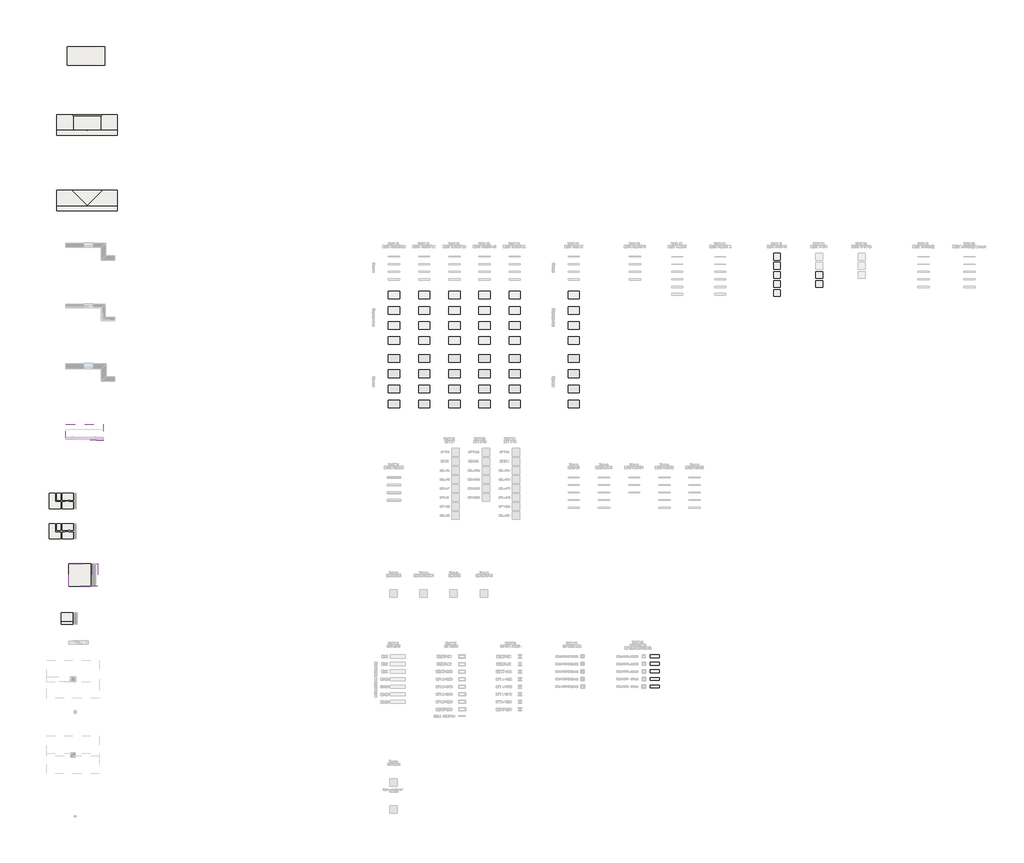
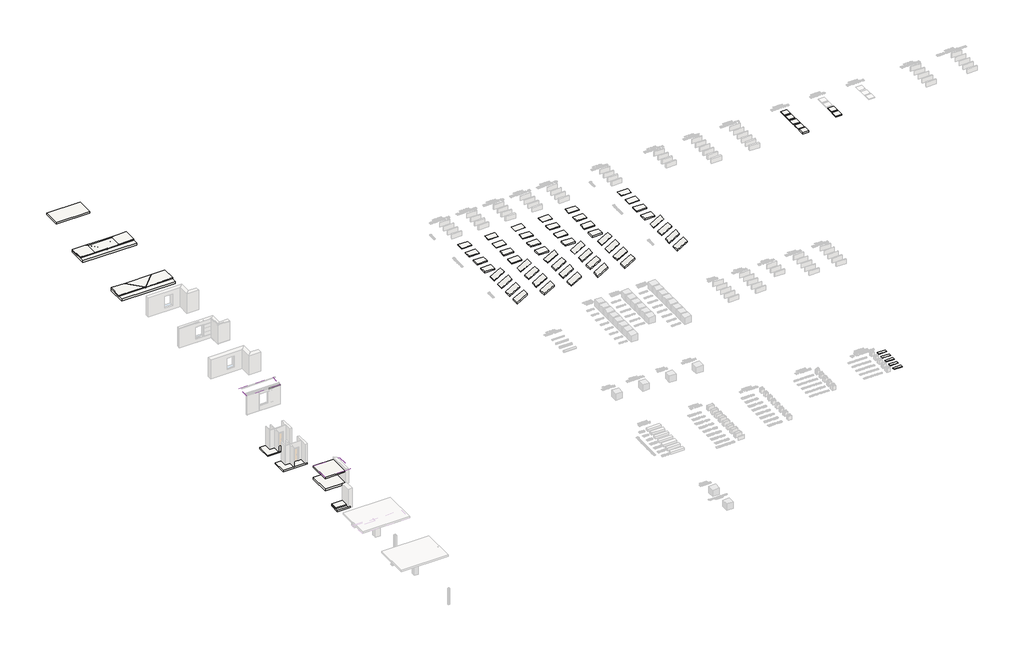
# One storey, part 5 of 35: 43 roofs, 30 slabs, 5 coverings, 1 pipe segment.
"""IFC4 building model written with IfcOpenShell, lengths in millimetres."""

from ifc_helpers import new_model, si_unit, point, frame, frame_2d, origin, origin_with_axes, place, context, project, spatial, polyline, circle_curve, ellipse_curve, trimmed, segment, composite_curve, outline, extrude, faceted_brep, element, save
from ifc_brep_helpers import plane_surface, revolved_surface, advanced_brep

model = new_model("IFC4")

# Units and contexts
model_context = context("Model", 3, world=origin())
ifc_project = project(units=[si_unit("LENGTHUNIT", "METRE", prefix="MILLI")], contexts=[model_context])

# Site, building, storey
site = spatial("IfcSite", under=ifc_project)
building = spatial("IfcBuilding", under=site)
storey = spatial("IfcBuildingStorey", under=building, Name="Этаж 01", Elevation=0.0)

# Coverings
placement = place(None, origin())
element("IfcCovering", 1, ObjectType="Тизол EURO-ЛИТ 80 (30мм)", at=placement, inside=storey, context=model_context, shape_type="SweptSolid", body=[
    extrude(outline(polyline([(37129.3548665, -48942.5493767), (37129.3548665, -49322.5493767), (35929.3548665, -49322.5493767), (35929.3548665, -48942.5493767), (37129.3548665, -48942.5493767)])), origin_with_axes(), (0.0, 0.0, 1.0), 30.0),
])
element("IfcCovering", 2, ObjectType="Тизол EURO-ЛИТ 80 (40мм)", at=placement, inside=storey, context=model_context, shape_type="SweptSolid", body=[
    extrude(outline(polyline([(37129.3548665, -49942.5493767), (37129.3548665, -50322.5493767), (35929.3548665, -50322.5493767), (35929.3548665, -49942.5493767), (37129.3548665, -49942.5493767)])), origin_with_axes(), (0.0, 0.0, 1.0), 40.0),
])
element("IfcCovering", 3, ObjectType="Тизол EURO-ЛИТ 80 (50мм)", at=placement, inside=storey, context=model_context, shape_type="SweptSolid", body=[
    extrude(outline(polyline([(37129.3548665, -50942.5493767), (37129.3548665, -51322.5493767), (35929.3548665, -51322.5493767), (35929.3548665, -50942.5493767), (37129.3548665, -50942.5493767)])), origin_with_axes(), (0.0, 0.0, 1.0), 50.0),
])
element("IfcCovering", 4, ObjectType="Тизол EURO-ЛИТ 80 (60мм)", at=placement, inside=storey, context=model_context, shape_type="SweptSolid", body=[
    extrude(outline(polyline([(37129.3548665, -51942.5493767), (37129.3548665, -52322.5493767), (35929.3548665, -52322.5493767), (35929.3548665, -51942.5493767), (37129.3548665, -51942.5493767)])), origin_with_axes(), (0.0, 0.0, 1.0), 60.0),
])
element("IfcCovering", 5, ObjectType="Тизол EURO-ЛИТ 80 (80мм)", at=placement, inside=storey, context=model_context, shape_type="SweptSolid", body=[
    extrude(outline(polyline([(37129.3548665, -52942.5493767), (37129.3548665, -53322.5493767), (35929.3548665, -53322.5493767), (35929.3548665, -52942.5493767), (37129.3548665, -52942.5493767)])), origin_with_axes(), (0.0, 0.0, 1.0), 80.0),
])

# Pipe segment
element("IfcPipeSegment", 6, ObjectType="ADSK_Желоб_Скос_125х125", at=placement, inside=storey, context=model_context, shape_type="SweptSolid", body=[
    extrude(outline(polyline([(-20449.5243348, 2980.3791945), (-20523.7243348, 2980.3791945), (-20561.8243348, 3079.8914271), (-20574.5243348, 3079.8914271), (-20574.5243348, 3092.5914271), (-20561.8243348, 3092.5914271), (-20561.8243348, 3089.4164271), (-20571.3493348, 3089.4164271), (-20571.3493348, 3083.0664271), (-20559.4620375, 3083.0664271), (-20521.3620375, 2983.5541945), (-20452.6993348, 2983.5541945), (-20452.6993348, 3105.2914271), (-20449.5243348, 3105.2914271), (-20449.5243348, 2980.3791945)])), frame((-38175.0301385, 0.0, 0.0), z_axis=(1.0, 0.0, 0.0), x_axis=(0.0, 1.0, 0.0)), (0.0, 0.0, 1.0), 1700.0),
])

# Roofs
element("IfcRoof", 7, ObjectType="Тизол EURO-РУФ Н (40мм)", at=placement, inside=storey, context=model_context, shape_type="SweptSolid", body=[
    extrude(outline(polyline([(52250.0, 4200.0), (53150.0, 4200.0), (53150.0, 3300.0), (52250.0, 3300.0), (52250.0, 4200.0)])), origin_with_axes(), (0.0, 0.0, 1.0), 40.0),
])
element("IfcRoof", 8, ObjectType="Тизол EURO-РУФ Н (50мм)", at=placement, inside=storey, context=model_context, shape_type="SweptSolid", body=[
    extrude(outline(polyline([(52250.0, 3000.0), (53150.0, 3000.0), (53150.0, 2100.0), (52250.0, 2100.0), (52250.0, 3000.0)])), origin_with_axes(), (0.0, 0.0, 1.0), 50.0),
])
element("IfcRoof", 9, ObjectType="Тизол EURO-РУФ Н (100мм)", at=placement, inside=storey, context=model_context, shape_type="SweptSolid", body=[
    extrude(outline(polyline([(52250.0, 1800.0), (53150.0, 1800.0), (53150.0, 900.0), (52250.0, 900.0), (52250.0, 1800.0)])), origin_with_axes(), (0.0, 0.0, 1.0), 100.0),
])
element("IfcRoof", 10, ObjectType="Тизол EURO-РУФ Н (150мм)", at=placement, inside=storey, context=model_context, shape_type="SweptSolid", body=[
    extrude(outline(polyline([(52250.0, 600.0), (53150.0, 600.0), (53150.0, -300.0), (52250.0, -300.0), (52250.0, 600.0)])), origin_with_axes(), (0.0, 0.0, 1.0), 150.0),
])
element("IfcRoof", 11, ObjectType="Тизол EURO-РУФ Н (200мм)", at=placement, inside=storey, context=model_context, shape_type="SweptSolid", body=[
    extrude(outline(polyline([(52250.0, -600.0), (53150.0, -600.0), (53150.0, -1500.0), (52250.0, -1500.0), (52250.0, -600.0)])), origin_with_axes(), (0.0, 0.0, 1.0), 200.0),
])
element("IfcRoof", 12, ObjectType="Тизол EURO-РУФ (100мм)", at=placement, inside=storey, context=model_context, shape_type="SweptSolid", body=[
    extrude(outline(polyline([(57850.0, 1800.0), (58750.0, 1800.0), (58750.0, 900.0), (57850.0, 900.0), (57850.0, 1800.0)])), origin_with_axes(), (0.0, 0.0, 1.0), 100.0),
])
element("IfcRoof", 13, ObjectType="Тизол EURO-РУФ (150мм)", at=placement, inside=storey, context=model_context, shape_type="SweptSolid", body=[
    extrude(outline(polyline([(57850.0, 600.0), (58750.0, 600.0), (58750.0, -300.0), (57850.0, -300.0), (57850.0, 600.0)])), origin_with_axes(), (0.0, 0.0, 1.0), 150.0),
])
element("IfcRoof", 14, ObjectType="Плита Бетон 200мм Пароизоляция Утеплитель Тизол Руф-Н 100мм", at=placement, inside=storey, context=model_context, shape_type="SweptSolid", body=[
    extrude(outline(polyline([(-42637.9965418, 19844.4262823), (-42637.9965418, 22544.4262823), (-34637.9965418, 22544.4262823), (-34637.9965418, 19844.4262823), (-42637.9965418, 19844.4262823)]), holes=[composite_curve([segment(trimmed(circle_curve(frame_2d((-38637.9965418, 20544.4262823)), 50.0), [point((-38687.9965418, 20544.4262823))], [point((-38587.9965418, 20544.4262823))], True, "CARTESIAN"), True, "CONTINUOUS"), segment(trimmed(circle_curve(frame_2d((-38637.9965418, 20544.4262823)), 50.0), [point((-38587.9965418, 20544.4262823))], [point((-38687.9965418, 20544.4262823))], True, "CARTESIAN"), True, "CONTINUOUS")], self_intersect=False)]), origin_with_axes(), (0.0, 0.0, 1.0), 300.0),
])
element("IfcRoof", 15, ObjectType="Утеплитель Тизол Руф Уклон 110мм", at=placement, inside=storey, context=model_context, shape_type="SweptSolid", body=[
    extrude(outline(composite_curve([segment(polyline([(-42637.9965418, 22544.4262823), (-34637.9965418, 22544.4262823), (-34637.9965418, 20544.4262823), (-38587.9965418, 20544.4262823)]), True, "CONTINUOUS"), segment(trimmed(circle_curve(frame_2d((-38637.9965418, 20544.4262823)), 50.0), [point((-38587.9965418, 20544.4262823))], [point((-38687.9965418, 20544.4262823))], True, "CARTESIAN"), True, "CONTINUOUS"), segment(polyline([(-38687.9965418, 20544.4262823), (-42637.9965418, 20544.4262823), (-42637.9965418, 22544.4262823)]), True, "CONTINUOUS")], self_intersect=False)), frame((0.0, 0.0, 300.0), z_axis=(0.0, 0.0, 1.0), x_axis=(1.0, 0.0, 0.0)), (0.0, 0.0, 1.0), 110.0),
])
element("IfcRoof", 16, ObjectType="Покрытие ПВХ_стяжка 50 мм", at=placement, inside=storey, context=model_context, shape_type="AdvancedBrep", body=[
    advanced_brep(
    [(-40637.9965418, 22544.4262823, 360.0), (-42637.9965418, 22544.4262823, 410.0), (-42637.9965418, 22544.4262823, 465.0171848), (-40637.9965418, 22544.4262823, 415.0171848), (-42637.9965418, 20544.4262823, 410.0), (-42637.9965418, 20544.4262823, 465.0171848), (-38673.3518808, 20579.7816214, 310.8838835), (-38687.9965418, 20544.4262823, 311.25), (-38687.9965418, 20544.4262823, 366.2671848), (-38673.3518808, 20579.7816214, 365.9010683)],
    [
        (0, 1),
        (1, 2),
        (2, 3),
        (3, 0),
        (1, 4),
        (4, 5),
        (5, 2),
        (0, 6),
        (6, 7, ellipse_curve(frame((-38637.9965418, 20544.4262823, 310.0), z_axis=(0.02499219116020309, 0.0, 0.9996876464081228), x_axis=(-0.9996876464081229, 0.0, 0.024992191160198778)), 50.0156226, 50.0)),
        (7, 4),
        (5, 8),
        (8, 9, ellipse_curve(frame((-38637.9965418, 20544.4262823, 365.0171848), z_axis=(-0.02499219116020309, 0.0, -0.9996876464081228), x_axis=(-0.9996876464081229, 0.0, 0.024992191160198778)), 50.0156226, 50.0)),
        (9, 3),
        (7, 8),
        (6, 9),
    ],
    [
        plane_surface(frame((-40637.9965418, 22544.4262823, 0.0), z_axis=(0.0, 1.0, 0.0), x_axis=(-1.0, 0.0, 0.0))),
        plane_surface(frame((-42637.9965418, 22544.4262823, 0.0), z_axis=(-1.0, 0.0, 0.0), x_axis=(0.0, -1.0, 0.0))),
        plane_surface(frame((-42637.9965418, 20544.4262823, 410.0), z_axis=(-0.02499219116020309, 0.0, -0.9996876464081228), x_axis=(0.0, -1.0, 0.0))),
        plane_surface(frame((-42637.9965418, 20544.4262823, 465.0171848), z_axis=(0.02499219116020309, 0.0, 0.9996876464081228), x_axis=(0.0, -1.0, 0.0))),
        plane_surface(frame((-42637.9965418, 20544.4262823, 0.0), z_axis=(0.0, -1.0, 0.0), x_axis=(1.0, 0.0, 0.0))),
        revolved_surface(polyline([(-38587.9965418, 20544.4262823, 366.26718480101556), (-38587.9965418, 20544.4262823, 308.74999999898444)]), (-38637.9965418, 20544.4262823, 0.0), (0.0, 0.0, 1.0)),
        plane_surface(frame((-38637.9965418, 20544.4262823, 0.0), z_axis=(0.7071067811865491, 0.707106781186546, 0.0), x_axis=(-0.707106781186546, 0.7071067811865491, 0.0))),
    ],
    [
        (0, [[1, 2, 3, 4]]),
        (1, [[5, 6, 7, -2]]),
        (2, [[-1, 8, 9, 10, -5]]),
        (3, [[-3, -7, 11, 12, 13]]),
        (4, [[-6, -10, 14, -11]]),
        (5, [[-9, 15, -12, -14]]),
        (6, [[-4, -13, -15, -8]]),
    ],
),
])
element("IfcRoof", 17, ObjectType="Покрытие ПВХ_стяжка 50 мм", at=placement, inside=storey, context=model_context, shape_type="AdvancedBrep", body=[
    advanced_brep(
    [(-34637.9965418, 22544.4262823, 410.0), (-36637.9965418, 22544.4262823, 360.0), (-36637.9965418, 22544.4262823, 415.0171848), (-34637.9965418, 22544.4262823, 465.0171848), (-34637.9965418, 20544.4262823, 410.0), (-34637.9965418, 20544.4262823, 465.0171848), (-38587.9965418, 20544.4262823, 311.25), (-38602.6412027, 20579.7816214, 310.8838835), (-38602.6412027, 20579.7816214, 365.9010683), (-38587.9965418, 20544.4262823, 366.2671848)],
    [
        (0, 1),
        (1, 2),
        (2, 3),
        (3, 0),
        (4, 0),
        (3, 5),
        (5, 4),
        (4, 6),
        (6, 7, ellipse_curve(frame((-38637.9965418, 20544.4262823, 310.0), z_axis=(-0.02499219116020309, 0.0, 0.9996876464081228), x_axis=(0.9996876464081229, 0.0, 0.024992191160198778)), 50.0156226, 50.0)),
        (7, 1),
        (2, 8),
        (8, 9, ellipse_curve(frame((-38637.9965418, 20544.4262823, 365.0171848), z_axis=(0.02499219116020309, 0.0, -0.9996876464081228), x_axis=(0.9996876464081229, 0.0, 0.024992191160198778)), 50.0156226, 50.0)),
        (9, 5),
        (9, 6),
        (7, 8),
    ],
    [
        plane_surface(frame((-34637.9965418, 22544.4262823, 0.0), z_axis=(0.0, 1.0, 0.0), x_axis=(-1.0, 0.0, 0.0))),
        plane_surface(frame((-34637.9965418, 20544.4262823, 0.0), z_axis=(1.0, 0.0, 0.0), x_axis=(0.0, 1.0, 0.0))),
        plane_surface(frame((-34637.9965418, 20544.4262823, 410.0), z_axis=(0.02499219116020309, 0.0, -0.9996876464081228), x_axis=(0.0, 1.0, 0.0))),
        plane_surface(frame((-34637.9965418, 20544.4262823, 465.0171848), z_axis=(-0.02499219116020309, 0.0, 0.9996876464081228), x_axis=(0.0, 1.0, 0.0))),
        plane_surface(frame((-38637.9965418, 20544.4262823, 0.0), z_axis=(0.0, -1.0, 0.0), x_axis=(1.0, 0.0, 0.0))),
        plane_surface(frame((-36637.9965418, 22544.4262823, 0.0), z_axis=(-0.7071067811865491, 0.707106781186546, 0.0), x_axis=(-0.707106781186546, -0.7071067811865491, 0.0))),
        revolved_surface(polyline([(-38587.9965418, 20544.4262823, 366.26718480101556), (-38587.9965418, 20544.4262823, 308.74999999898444)]), (-38637.9965418, 20544.4262823, 0.0), (0.0, 0.0, 1.0)),
    ],
    [
        (0, [[1, 2, 3, 4]]),
        (1, [[5, -4, 6, 7]]),
        (2, [[-1, -5, 8, 9, 10]]),
        (3, [[-3, 11, 12, 13, -6]]),
        (4, [[-7, -13, 14, -8]]),
        (5, [[-2, -10, 15, -11]]),
        (6, [[-9, -14, -12, -15]]),
    ],
),
])
element("IfcRoof", 18, ObjectType="Покрытие ПВХ_стяжка 50 мм", at=placement, inside=storey, context=model_context, shape_type="AdvancedBrep", body=[
    advanced_brep(
    [(-40637.9965418, 22544.4262823, 360.0), (-36637.9965418, 22544.4262823, 360.0), (-38602.6412027, 20579.7816214, 310.8838835), (-38673.3518808, 20579.7816214, 310.8838835), (-36637.9965418, 22544.4262823, 415.0171848), (-40637.9965418, 22544.4262823, 415.0171848), (-38673.3518808, 20579.7816214, 365.9010683), (-38602.6412027, 20579.7816214, 365.9010683)],
    [
        (0, 1),
        (1, 2),
        (2, 3, ellipse_curve(frame((-38637.9965418, 20544.4262823, 310.0), z_axis=(0.0, -0.02499219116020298, 0.9996876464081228), x_axis=(0.0, 0.9996876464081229, 0.02499219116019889)), 50.0156226, 50.0)),
        (3, 0),
        (4, 5),
        (5, 6),
        (6, 7, ellipse_curve(frame((-38637.9965418, 20544.4262823, 365.0171848), z_axis=(0.0, 0.02499219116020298, -0.9996876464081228), x_axis=(0.0, 0.9996876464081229, 0.02499219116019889)), 50.0156226, 50.0)),
        (7, 4),
        (5, 0),
        (3, 6),
        (2, 7),
        (1, 4),
    ],
    [
        plane_surface(frame((-40637.9965418, 22544.4262823, 360.0), z_axis=(0.0, 0.02499219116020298, -0.9996876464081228), x_axis=(-1.0, 0.0, 0.0))),
        plane_surface(frame((-40637.9965418, 22544.4262823, 415.0171848), z_axis=(0.0, -0.02499219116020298, 0.9996876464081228), x_axis=(-1.0, 0.0, 0.0))),
        plane_surface(frame((-40637.9965418, 22544.4262823, 0.0), z_axis=(-0.7071067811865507, -0.7071067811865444, 0.0), x_axis=(0.7071067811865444, -0.7071067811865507, 0.0))),
        revolved_surface(polyline([(-38587.9965418, 20544.4262823, 366.26718480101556), (-38587.9965418, 20544.4262823, 308.74999999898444)]), (-38637.9965418, 20544.4262823, 0.0), (0.0, 0.0, 1.0)),
        plane_surface(frame((-38637.9965418, 20544.4262823, 0.0), z_axis=(0.7071067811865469, -0.7071067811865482, 0.0), x_axis=(0.7071067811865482, 0.7071067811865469, 0.0))),
        plane_surface(frame((-36637.9965418, 22544.4262823, 0.0), z_axis=(0.0, 1.0, 0.0), x_axis=(-1.0, 0.0, 0.0))),
    ],
    [
        (0, [[1, 2, 3, 4]]),
        (1, [[5, 6, 7, 8]]),
        (2, [[9, -4, 10, -6]]),
        (3, [[-3, 11, -7, -10]]),
        (4, [[12, -8, -11, -2]]),
        (5, [[-1, -9, -5, -12]]),
    ],
),
])
element("IfcRoof", 19, ObjectType="Плита Бетон 200мм Пароизоляция Керамзитобетон 130мм", at=placement, inside=storey, context=model_context, shape_type="SweptSolid", body=[
    extrude(outline(polyline([(-42637.9965418, 9844.4262823), (-42637.9965418, 12544.4262823), (-34637.9965418, 12544.4262823), (-34637.9965418, 9844.4262823), (-42637.9965418, 9844.4262823)]), holes=[composite_curve([segment(trimmed(circle_curve(frame_2d((-38637.9965418, 10544.4262823)), 50.0), [point((-38687.9965418, 10544.4262823))], [point((-38587.9965418, 10544.4262823))], True, "CARTESIAN"), True, "CONTINUOUS"), segment(trimmed(circle_curve(frame_2d((-38637.9965418, 10544.4262823)), 50.0), [point((-38587.9965418, 10544.4262823))], [point((-38687.9965418, 10544.4262823))], True, "CARTESIAN"), True, "CONTINUOUS")], self_intersect=False)]), origin_with_axes(), (0.0, 0.0, 1.0), 330.0),
])
element("IfcRoof", 20, ObjectType="Покрытие ПВХ_Утеплитель Тизол EURO РУФ 150 мм", at=placement, inside=storey, context=model_context, shape_type="AdvancedBrep", body=[
    advanced_brep(
    [(-40637.9965418, 12544.4262823, 280.0), (-42637.9965418, 12544.4262823, 330.0), (-42637.9965418, 12544.4262823, 485.0484299), (-40637.9965418, 12544.4262823, 435.0484299), (-42637.9965418, 10544.4262823, 330.0), (-42637.9965418, 10544.4262823, 485.0484299), (-38673.3518808, 10579.7816214, 230.8838835), (-38687.9965418, 10544.4262823, 231.25), (-38687.9965418, 10544.4262823, 386.2984299), (-38673.3518808, 10579.7816214, 385.9323134)],
    [
        (0, 1),
        (1, 2),
        (2, 3),
        (3, 0),
        (1, 4),
        (4, 5),
        (5, 2),
        (0, 6),
        (6, 7, ellipse_curve(frame((-38637.9965418, 10544.4262823, 230.0), z_axis=(0.02499219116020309, 0.0, 0.9996876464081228), x_axis=(-0.9996876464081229, 0.0, 0.024992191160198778)), 50.0156226, 50.0)),
        (7, 4),
        (5, 8),
        (8, 9, ellipse_curve(frame((-38637.9965418, 10544.4262823, 385.0484299), z_axis=(-0.02499219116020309, 0.0, -0.9996876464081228), x_axis=(-0.9996876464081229, 0.0, 0.024992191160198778)), 50.0156226, 50.0)),
        (9, 3),
        (7, 8),
        (6, 9),
    ],
    [
        plane_surface(frame((-40637.9965418, 12544.4262823, 0.0), z_axis=(0.0, 1.0, 0.0), x_axis=(-1.0, 0.0, 0.0))),
        plane_surface(frame((-42637.9965418, 12544.4262823, 0.0), z_axis=(-1.0, 0.0, 0.0), x_axis=(0.0, -1.0, 0.0))),
        plane_surface(frame((-42637.9965418, 10544.4262823, 330.0), z_axis=(-0.02499219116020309, 0.0, -0.9996876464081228), x_axis=(0.0, -1.0, 0.0))),
        plane_surface(frame((-42637.9965418, 10544.4262823, 485.0484299), z_axis=(0.02499219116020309, 0.0, 0.9996876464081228), x_axis=(0.0, -1.0, 0.0))),
        plane_surface(frame((-42637.9965418, 10544.4262823, 0.0), z_axis=(0.0, -1.0, 0.0), x_axis=(1.0, 0.0, 0.0))),
        revolved_surface(polyline([(-38587.9965418, 10544.4262823, 386.29842990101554), (-38587.9965418, 10544.4262823, 228.74999999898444)]), (-38637.9965418, 10544.4262823, 0.0), (0.0, 0.0, 1.0)),
        plane_surface(frame((-38637.9965418, 10544.4262823, 0.0), z_axis=(0.7071067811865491, 0.707106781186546, 0.0), x_axis=(-0.707106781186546, 0.7071067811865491, 0.0))),
    ],
    [
        (0, [[1, 2, 3, 4]]),
        (1, [[5, 6, 7, -2]]),
        (2, [[-1, 8, 9, 10, -5]]),
        (3, [[-3, -7, 11, 12, 13]]),
        (4, [[-6, -10, 14, -11]]),
        (5, [[-9, 15, -12, -14]]),
        (6, [[-4, -13, -15, -8]]),
    ],
),
])
element("IfcRoof", 21, ObjectType="Покрытие ПВХ_Утеплитель Тизол EURO РУФ 150 мм", at=placement, inside=storey, context=model_context, shape_type="AdvancedBrep", body=[
    advanced_brep(
    [(-34637.9965418, 12544.4262823, 330.0), (-36637.9965418, 12544.4262823, 280.0), (-36637.9965418, 12544.4262823, 435.0484299), (-34637.9965418, 12544.4262823, 485.0484299), (-34637.9965418, 10544.4262823, 330.0), (-34637.9965418, 10544.4262823, 485.0484299), (-38587.9965418, 10544.4262823, 231.25), (-38602.6412027, 10579.7816214, 230.8838835), (-38602.6412027, 10579.7816214, 385.9323134), (-38587.9965418, 10544.4262823, 386.2984299)],
    [
        (0, 1),
        (1, 2),
        (2, 3),
        (3, 0),
        (4, 0),
        (3, 5),
        (5, 4),
        (4, 6),
        (6, 7, ellipse_curve(frame((-38637.9965418, 10544.4262823, 230.0), z_axis=(-0.02499219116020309, 0.0, 0.9996876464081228), x_axis=(0.9996876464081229, 0.0, 0.024992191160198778)), 50.0156226, 50.0)),
        (7, 1),
        (2, 8),
        (8, 9, ellipse_curve(frame((-38637.9965418, 10544.4262823, 385.0484299), z_axis=(0.02499219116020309, 0.0, -0.9996876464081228), x_axis=(0.9996876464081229, 0.0, 0.024992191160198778)), 50.0156226, 50.0)),
        (9, 5),
        (9, 6),
        (7, 8),
    ],
    [
        plane_surface(frame((-34637.9965418, 12544.4262823, 0.0), z_axis=(0.0, 1.0, 0.0), x_axis=(-1.0, 0.0, 0.0))),
        plane_surface(frame((-34637.9965418, 10544.4262823, 0.0), z_axis=(1.0, 0.0, 0.0), x_axis=(0.0, 1.0, 0.0))),
        plane_surface(frame((-34637.9965418, 10544.4262823, 330.0), z_axis=(0.02499219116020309, 0.0, -0.9996876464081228), x_axis=(0.0, 1.0, 0.0))),
        plane_surface(frame((-34637.9965418, 10544.4262823, 485.0484299), z_axis=(-0.02499219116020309, 0.0, 0.9996876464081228), x_axis=(0.0, 1.0, 0.0))),
        plane_surface(frame((-38637.9965418, 10544.4262823, 0.0), z_axis=(0.0, -1.0, 0.0), x_axis=(1.0, 0.0, 0.0))),
        plane_surface(frame((-36637.9965418, 12544.4262823, 0.0), z_axis=(-0.7071067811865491, 0.707106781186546, 0.0), x_axis=(-0.707106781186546, -0.7071067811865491, 0.0))),
        revolved_surface(polyline([(-38587.9965418, 10544.4262823, 386.29842990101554), (-38587.9965418, 10544.4262823, 228.74999999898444)]), (-38637.9965418, 10544.4262823, 0.0), (0.0, 0.0, 1.0)),
    ],
    [
        (0, [[1, 2, 3, 4]]),
        (1, [[5, -4, 6, 7]]),
        (2, [[-1, -5, 8, 9, 10]]),
        (3, [[-3, 11, 12, 13, -6]]),
        (4, [[-7, -13, 14, -8]]),
        (5, [[-2, -10, 15, -11]]),
        (6, [[-9, -14, -12, -15]]),
    ],
),
])
element("IfcRoof", 22, ObjectType="Покрытие ПВХ_Утеплитель Тизол EURO РУФ 150 мм", at=placement, inside=storey, context=model_context, shape_type="AdvancedBrep", body=[
    advanced_brep(
    [(-40637.9965418, 12544.4262823, 280.0), (-36637.9965418, 12544.4262823, 280.0), (-38602.6412027, 10579.7816214, 230.8838835), (-38673.3518808, 10579.7816214, 230.8838835), (-36637.9965418, 12544.4262823, 435.0484299), (-40637.9965418, 12544.4262823, 435.0484299), (-38673.3518808, 10579.7816214, 385.9323134), (-38602.6412027, 10579.7816214, 385.9323134)],
    [
        (0, 1),
        (1, 2),
        (2, 3, ellipse_curve(frame((-38637.9965418, 10544.4262823, 230.0), z_axis=(0.0, -0.024992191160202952, 0.9996876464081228), x_axis=(0.0, 0.9996876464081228, 0.024992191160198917)), 50.0156226, 50.0)),
        (3, 0),
        (4, 5),
        (5, 6),
        (6, 7, ellipse_curve(frame((-38637.9965418, 10544.4262823, 385.0484299), z_axis=(0.0, 0.02499219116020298, -0.9996876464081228), x_axis=(0.0, 0.9996876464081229, 0.02499219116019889)), 50.0156226, 50.0)),
        (7, 4),
        (5, 0),
        (3, 6),
        (2, 7),
        (1, 4),
    ],
    [
        plane_surface(frame((-40637.9965418, 12544.4262823, 280.0), z_axis=(0.0, 0.024992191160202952, -0.9996876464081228), x_axis=(-1.0, 0.0, 0.0))),
        plane_surface(frame((-40637.9965418, 12544.4262823, 435.0484299), z_axis=(0.0, -0.02499219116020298, 0.9996876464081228), x_axis=(-1.0, 0.0, 0.0))),
        plane_surface(frame((-40637.9965418, 12544.4262823, 0.0), z_axis=(-0.7071067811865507, -0.7071067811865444, 0.0), x_axis=(0.7071067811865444, -0.7071067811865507, 0.0))),
        revolved_surface(polyline([(-38587.9965418, 10544.4262823, 386.29842990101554), (-38587.9965418, 10544.4262823, 228.74999999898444)]), (-38637.9965418, 10544.4262823, 0.0), (0.0, 0.0, 1.0)),
        plane_surface(frame((-38637.9965418, 10544.4262823, 0.0), z_axis=(0.7071067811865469, -0.7071067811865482, 0.0), x_axis=(0.7071067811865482, 0.7071067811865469, 0.0))),
        plane_surface(frame((-36637.9965418, 12544.4262823, 0.0), z_axis=(0.0, 1.0, 0.0), x_axis=(-1.0, 0.0, 0.0))),
    ],
    [
        (0, [[1, 2, 3, 4]]),
        (1, [[5, 6, 7, 8]]),
        (2, [[9, -4, 10, -6]]),
        (3, [[-3, 11, -7, -10]]),
        (4, [[12, -8, -11, -2]]),
        (5, [[-1, -9, -5, -12]]),
    ],
),
])
element("IfcRoof", 23, ObjectType="Каркасная кровля Профлист С-20 Утеплитель Тизол EURO ЛАЙТ 50 100мм Профлист С-20", at=placement, inside=storey, context=model_context, shape_type="Brep", body=[
    faceted_brep([(-41475.0301385, -20409.5243348, 3000.0), (-41475.0301385, -20259.5243348, 3040.1923789), (-41475.0301385, -18409.5243348, 3535.8983849), (-36475.0301385, -18409.5243348, 3535.8983849), (-36475.0301385, -20259.5243348, 3040.1923789), (-36475.0301385, -20409.5243348, 3000.0), (-41475.0301385, -18409.5243348, 3691.1898119), (-41475.0301385, -20409.5243348, 3155.2914271), (-36475.0301385, -20409.5243348, 3155.2914271), (-36475.0301385, -18409.5243348, 3691.1898119)], [[[0, 1, 2, 3, 4, 5]], [[6, 7, 8, 9]], [[5, 8, 7, 0]], [[7, 6, 2, 1, 0]], [[6, 9, 3, 2]], [[9, 8, 5, 4, 3]]]),
])
element("IfcRoof", 24, ObjectType="Скатная кровля Черепица 50мм Утеплитель Тизол EURO-БЛОК 200мм", at=placement, inside=storey, context=model_context, shape_type="SweptSolid", body=[
    extrude(outline(polyline([(3925.6852877, -41044.6755112), (1805.3664241, -37372.1755112), (2121.4656965, -37189.6755112), (4347.1509842, -41044.6755112), (3925.6852877, -41044.6755112)])), frame((0.0, -39859.6455937, 0.0), z_axis=(0.0, 1.0, 0.0), x_axis=(0.0, 0.0, 1.0)), (0.0, 0.0, 1.0), 3000.0),
])
element("IfcRoof", 25, ObjectType="Тизол EURO-ЛАЙТ 25 (50мм)", at=placement, inside=storey, context=model_context, shape_type="SweptSolid", body=[
    extrude(outline(polyline([(923.7604307, 2738.9564212), (57.7350269, 1238.9564212), (0.0, 1238.9564212), (866.0254038, 2738.9564212), (923.7604307, 2738.9564212)])), frame((0.0, -10227.4513899, 0.0), z_axis=(0.0, 1.0, 0.0), x_axis=(0.0, 0.0, 1.0)), (0.0, 0.0, 1.0), 1000.0),
])
element("IfcRoof", 26, ObjectType="Тизол EURO-ЛАЙТ 25 (100мм)", at=placement, inside=storey, context=model_context, shape_type="SweptSolid", body=[
    extrude(outline(polyline([(981.4954576, 2738.9564212), (115.4700538, 1238.9564212), (0.0, 1238.9564212), (866.0254038, 2738.9564212), (981.4954576, 2738.9564212)])), frame((0.0, -12227.4513899, 0.0), z_axis=(0.0, 1.0, 0.0), x_axis=(0.0, 0.0, 1.0)), (0.0, 0.0, 1.0), 1000.0),
])
element("IfcRoof", 27, ObjectType="Тизол EURO-ЛАЙТ 25 (150мм)", at=placement, inside=storey, context=model_context, shape_type="SweptSolid", body=[
    extrude(outline(polyline([(1039.2304845, 2738.9564212), (173.2050808, 1238.9564212), (0.0, 1238.9564212), (866.0254038, 2738.9564212), (1039.2304845, 2738.9564212)])), frame((0.0, -14227.4513899, 0.0), z_axis=(0.0, 1.0, 0.0), x_axis=(0.0, 0.0, 1.0)), (0.0, 0.0, 1.0), 1000.0),
])
element("IfcRoof", 28, ObjectType="Тизол EURO-ЛАЙТ 25 (200мм)", at=placement, inside=storey, context=model_context, shape_type="SweptSolid", body=[
    extrude(outline(polyline([(1096.9655115, 2738.9564212), (230.9401077, 1238.9564212), (0.0, 1238.9564212), (866.0254038, 2738.9564212), (1096.9655115, 2738.9564212)])), frame((0.0, -16227.4513899, 0.0), z_axis=(0.0, 1.0, 0.0), x_axis=(0.0, 0.0, 1.0)), (0.0, 0.0, 1.0), 1000.0),
])
element("IfcRoof", 29, ObjectType="Тизол EURO-ЛАЙТ 30 (50мм)", at=placement, inside=storey, context=model_context, shape_type="SweptSolid", body=[
    extrude(outline(polyline([(923.7604307, 6738.9564212), (57.7350269, 5238.9564212), (0.0, 5238.9564212), (866.0254038, 6738.9564212), (923.7604307, 6738.9564212)])), frame((0.0, -10227.4513899, 0.0), z_axis=(0.0, 1.0, 0.0), x_axis=(0.0, 0.0, 1.0)), (0.0, 0.0, 1.0), 1000.0),
])
element("IfcRoof", 30, ObjectType="Тизол EURO-ЛАЙТ 30 (100мм)", at=placement, inside=storey, context=model_context, shape_type="SweptSolid", body=[
    extrude(outline(polyline([(981.4954576, 6738.9564212), (115.4700538, 5238.9564212), (0.0, 5238.9564212), (866.0254038, 6738.9564212), (981.4954576, 6738.9564212)])), frame((0.0, -12227.4513899, 0.0), z_axis=(0.0, 1.0, 0.0), x_axis=(0.0, 0.0, 1.0)), (0.0, 0.0, 1.0), 1000.0),
])
element("IfcRoof", 31, ObjectType="Тизол EURO-ЛАЙТ 30 (150мм)", at=placement, inside=storey, context=model_context, shape_type="SweptSolid", body=[
    extrude(outline(polyline([(1039.2304845, 6738.9564212), (173.2050808, 5238.9564212), (0.0, 5238.9564212), (866.0254038, 6738.9564212), (1039.2304845, 6738.9564212)])), frame((0.0, -14227.4513899, 0.0), z_axis=(0.0, 1.0, 0.0), x_axis=(0.0, 0.0, 1.0)), (0.0, 0.0, 1.0), 1000.0),
])
element("IfcRoof", 32, ObjectType="Тизол EURO-ЛАЙТ 30 (200мм)", at=placement, inside=storey, context=model_context, shape_type="SweptSolid", body=[
    extrude(outline(polyline([(1096.9655115, 6738.9564212), (230.9401077, 5238.9564212), (0.0, 5238.9564212), (866.0254038, 6738.9564212), (1096.9655115, 6738.9564212)])), frame((0.0, -16227.4513899, 0.0), z_axis=(0.0, 1.0, 0.0), x_axis=(0.0, 0.0, 1.0)), (0.0, 0.0, 1.0), 1000.0),
])
element("IfcRoof", 33, ObjectType="Тизол EURO-ЛАЙТ 35 (50мм)", at=placement, inside=storey, context=model_context, shape_type="SweptSolid", body=[
    extrude(outline(polyline([(923.7604307, 10738.9564212), (57.7350269, 9238.9564212), (0.0, 9238.9564212), (866.0254038, 10738.9564212), (923.7604307, 10738.9564212)])), frame((0.0, -10227.4513899, 0.0), z_axis=(0.0, 1.0, 0.0), x_axis=(0.0, 0.0, 1.0)), (0.0, 0.0, 1.0), 1000.0),
])
element("IfcRoof", 34, ObjectType="Тизол EURO-ЛАЙТ 35 (100мм)", at=placement, inside=storey, context=model_context, shape_type="SweptSolid", body=[
    extrude(outline(polyline([(981.4954576, 10738.9564212), (115.4700538, 9238.9564212), (0.0, 9238.9564212), (866.0254038, 10738.9564212), (981.4954576, 10738.9564212)])), frame((0.0, -12227.4513899, 0.0), z_axis=(0.0, 1.0, 0.0), x_axis=(0.0, 0.0, 1.0)), (0.0, 0.0, 1.0), 1000.0),
])
element("IfcRoof", 35, ObjectType="Тизол EURO-ЛАЙТ 35 (150мм)", at=placement, inside=storey, context=model_context, shape_type="SweptSolid", body=[
    extrude(outline(polyline([(1039.2304845, 10738.9564212), (173.2050808, 9238.9564212), (0.0, 9238.9564212), (866.0254038, 10738.9564212), (1039.2304845, 10738.9564212)])), frame((0.0, -14227.4513899, 0.0), z_axis=(0.0, 1.0, 0.0), x_axis=(0.0, 0.0, 1.0)), (0.0, 0.0, 1.0), 1000.0),
])
element("IfcRoof", 36, ObjectType="Тизол EURO-ЛАЙТ 35 (200мм)", at=placement, inside=storey, context=model_context, shape_type="SweptSolid", body=[
    extrude(outline(polyline([(1096.9655115, 10738.9564212), (230.9401077, 9238.9564212), (0.0, 9238.9564212), (866.0254038, 10738.9564212), (1096.9655115, 10738.9564212)])), frame((0.0, -16227.4513899, 0.0), z_axis=(0.0, 1.0, 0.0), x_axis=(0.0, 0.0, 1.0)), (0.0, 0.0, 1.0), 1000.0),
])
element("IfcRoof", 37, ObjectType="Тизол EURO-ЛАЙТ 40 (50мм)", at=placement, inside=storey, context=model_context, shape_type="SweptSolid", body=[
    extrude(outline(polyline([(923.7604307, 14738.9564212), (57.7350269, 13238.9564212), (0.0, 13238.9564212), (866.0254038, 14738.9564212), (923.7604307, 14738.9564212)])), frame((0.0, -10227.4513899, 0.0), z_axis=(0.0, 1.0, 0.0), x_axis=(0.0, 0.0, 1.0)), (0.0, 0.0, 1.0), 1000.0),
])
element("IfcRoof", 38, ObjectType="Тизол EURO-ЛАЙТ 40 (100мм)", at=placement, inside=storey, context=model_context, shape_type="SweptSolid", body=[
    extrude(outline(polyline([(981.4954576, 14738.9564212), (115.4700538, 13238.9564212), (0.0, 13238.9564212), (866.0254038, 14738.9564212), (981.4954576, 14738.9564212)])), frame((0.0, -12227.4513899, 0.0), z_axis=(0.0, 1.0, 0.0), x_axis=(0.0, 0.0, 1.0)), (0.0, 0.0, 1.0), 1000.0),
])
element("IfcRoof", 39, ObjectType="Тизол EURO-ЛАЙТ 40 (150мм)", at=placement, inside=storey, context=model_context, shape_type="SweptSolid", body=[
    extrude(outline(polyline([(1039.2304845, 14738.9564212), (173.2050808, 13238.9564212), (0.0, 13238.9564212), (866.0254038, 14738.9564212), (1039.2304845, 14738.9564212)])), frame((0.0, -14227.4513899, 0.0), z_axis=(0.0, 1.0, 0.0), x_axis=(0.0, 0.0, 1.0)), (0.0, 0.0, 1.0), 1000.0),
])
element("IfcRoof", 40, ObjectType="Тизол EURO-ЛАЙТ 40 (200мм)", at=placement, inside=storey, context=model_context, shape_type="SweptSolid", body=[
    extrude(outline(polyline([(1096.9655115, 14738.9564212), (230.9401077, 13238.9564212), (0.0, 13238.9564212), (866.0254038, 14738.9564212), (1096.9655115, 14738.9564212)])), frame((0.0, -16227.4513899, 0.0), z_axis=(0.0, 1.0, 0.0), x_axis=(0.0, 0.0, 1.0)), (0.0, 0.0, 1.0), 1000.0),
])
element("IfcRoof", 41, ObjectType="Тизол EURO-ЛАЙТ 50 (50мм)", at=placement, inside=storey, context=model_context, shape_type="SweptSolid", body=[
    extrude(outline(polyline([(923.7604307, 18738.9564212), (57.7350269, 17238.9564212), (0.0, 17238.9564212), (866.0254038, 18738.9564212), (923.7604307, 18738.9564212)])), frame((0.0, -10227.4513899, 0.0), z_axis=(0.0, 1.0, 0.0), x_axis=(0.0, 0.0, 1.0)), (0.0, 0.0, 1.0), 1000.0),
])
element("IfcRoof", 42, ObjectType="Тизол EURO-ЛАЙТ 50 (100мм)", at=placement, inside=storey, context=model_context, shape_type="SweptSolid", body=[
    extrude(outline(polyline([(981.4954576, 18738.9564212), (115.4700538, 17238.9564212), (0.0, 17238.9564212), (866.0254038, 18738.9564212), (981.4954576, 18738.9564212)])), frame((0.0, -12227.4513899, 0.0), z_axis=(0.0, 1.0, 0.0), x_axis=(0.0, 0.0, 1.0)), (0.0, 0.0, 1.0), 1000.0),
])
element("IfcRoof", 43, ObjectType="Тизол EURO-ЛАЙТ 50 (150мм)", at=placement, inside=storey, context=model_context, shape_type="SweptSolid", body=[
    extrude(outline(polyline([(1039.2304845, 18738.9564212), (173.2050808, 17238.9564212), (0.0, 17238.9564212), (866.0254038, 18738.9564212), (1039.2304845, 18738.9564212)])), frame((0.0, -14227.4513899, 0.0), z_axis=(0.0, 1.0, 0.0), x_axis=(0.0, 0.0, 1.0)), (0.0, 0.0, 1.0), 1000.0),
])
element("IfcRoof", 44, ObjectType="Тизол EURO-ЛАЙТ 50 (200мм)", at=placement, inside=storey, context=model_context, shape_type="SweptSolid", body=[
    extrude(outline(polyline([(1096.9655115, 18738.9564212), (230.9401077, 17238.9564212), (0.0, 17238.9564212), (866.0254038, 18738.9564212), (1096.9655115, 18738.9564212)])), frame((0.0, -16227.4513899, 0.0), z_axis=(0.0, 1.0, 0.0), x_axis=(0.0, 0.0, 1.0)), (0.0, 0.0, 1.0), 1000.0),
])
element("IfcRoof", 45, ObjectType="Тизол EURO-БЛОК (50мм)", at=placement, inside=storey, context=model_context, shape_type="SweptSolid", body=[
    extrude(outline(polyline([(923.7604307, 26538.9564212), (57.7350269, 25038.9564212), (0.0, 25038.9564212), (866.0254038, 26538.9564212), (923.7604307, 26538.9564212)])), frame((0.0, -10227.4513899, 0.0), z_axis=(0.0, 1.0, 0.0), x_axis=(0.0, 0.0, 1.0)), (0.0, 0.0, 1.0), 1000.0),
])
element("IfcRoof", 46, ObjectType="Тизол EURO-БЛОК (100мм)", at=placement, inside=storey, context=model_context, shape_type="SweptSolid", body=[
    extrude(outline(polyline([(981.4954576, 26538.9564212), (115.4700538, 25038.9564212), (0.0, 25038.9564212), (866.0254038, 26538.9564212), (981.4954576, 26538.9564212)])), frame((0.0, -12227.4513899, 0.0), z_axis=(0.0, 1.0, 0.0), x_axis=(0.0, 0.0, 1.0)), (0.0, 0.0, 1.0), 1000.0),
])
element("IfcRoof", 47, ObjectType="Тизол EURO-БЛОК (150мм)", at=placement, inside=storey, context=model_context, shape_type="SweptSolid", body=[
    extrude(outline(polyline([(1039.2304845, 26538.9564212), (173.2050808, 25038.9564212), (0.0, 25038.9564212), (866.0254038, 26538.9564212), (1039.2304845, 26538.9564212)])), frame((0.0, -14227.4513899, 0.0), z_axis=(0.0, 1.0, 0.0), x_axis=(0.0, 0.0, 1.0)), (0.0, 0.0, 1.0), 1000.0),
])
element("IfcRoof", 48, ObjectType="Тизол EURO-БЛОК (200мм)", at=placement, inside=storey, context=model_context, shape_type="SweptSolid", body=[
    extrude(outline(polyline([(1096.9655115, 26538.9564212), (230.9401077, 25038.9564212), (0.0, 25038.9564212), (866.0254038, 26538.9564212), (1096.9655115, 26538.9564212)])), frame((0.0, -16227.4513899, 0.0), z_axis=(0.0, 1.0, 0.0), x_axis=(0.0, 0.0, 1.0)), (0.0, 0.0, 1.0), 1000.0),
])
element("IfcRoof", 49, ObjectType="Огнестойкая однослойная кровля \"Тизол-Кровля\" покрытие ПВХ-Мембрана", at=placement, inside=storey, context=model_context, shape_type="SweptSolid", body=[
    extrude(outline(polyline([(-41267.450648, 31587.9652995), (-36267.450648, 31587.9652995), (-36267.450648, 29087.9652995), (-41267.450648, 29087.9652995), (-41267.450648, 31587.9652995)])), origin_with_axes(), (0.0, 0.0, 1.0), 217.0),
])

# Slabs
element("IfcSlab", 50, ObjectType="ADSK_Перекрытие_Плита_Бетон_200", at=placement, inside=storey, context=model_context, shape_type="SweptSolid", body=[
    extrude(outline(polyline([(-43665.9230997, -27570.4666904), (-40086.1701961, -27570.4666904), (-40086.1701961, -29570.4666904), (-43665.9230997, -29570.4666904), (-43665.9230997, -27570.4666904)])), frame((0.0, 0.0, -200.0), z_axis=(0.0, 0.0, 1.0), x_axis=(1.0, 0.0, 0.0)), (0.0, 0.0, 1.0), 200.0),
])
element("IfcSlab", 51, ObjectType="ADSK_Перекрытие_Плита_Бетон_200", at=placement, inside=storey, context=model_context, shape_type="SweptSolid", body=[
    extrude(outline(polyline([(-43665.9230997, -31570.4666904), (-40086.1701961, -31570.4666904), (-40086.1701961, -33570.4666904), (-43665.9230997, -33570.4666904), (-43665.9230997, -31570.4666904)])), frame((0.0, 0.0, -200.0), z_axis=(0.0, 0.0, 1.0), x_axis=(1.0, 0.0, 0.0)), (0.0, 0.0, 1.0), 200.0),
])
element("IfcSlab", 52, ObjectType="Перекрытие Лаги 200мм Утеплитель Тизол EURO БЛОК", at=placement, inside=storey, context=model_context, shape_type="Brep", body=[
    faceted_brep([(-38044.6755112, -36859.6455937, -300.0), (-38044.6755112, -39859.6455937, -300.0), (-41044.6755112, -39859.6455937, -300.0), (-41044.6755112, -36859.6455937, -300.0), (-38044.6755112, -36859.6455937, 0.0), (-38064.6755112, -36859.6455937, 0.0), (-41044.6755112, -36859.6455937, 0.0), (-41044.6755112, -39859.6455937, 0.0), (-38064.6755112, -39859.6455937, 0.0), (-38044.6755112, -39859.6455937, 0.0)], [[[0, 1, 2, 3]], [[4, 5, 6, 7, 8, 9]], [[1, 0, 4, 9]], [[2, 1, 9, 8, 7]], [[3, 2, 7, 6]], [[0, 3, 6, 5, 4]]]),
])
element("IfcSlab", 53, ObjectType="Перекрытие чердачное Лаги 150мм Утеплитель Тизол EURO БЛОК", at=placement, inside=storey, context=model_context, shape_type="Brep", body=[
    faceted_brep([(-38044.6755112, -36859.6455937, 1613.0), (-38044.6755112, -39859.6455937, 1613.0), (-38064.6755112, -39859.6455937, 1613.0), (-41044.6755112, -39859.6455937, 1613.0), (-41044.6755112, -36859.6455937, 1613.0), (-38064.6755112, -36859.6455937, 1613.0), (-38044.6755112, -36859.6455937, 1800.0), (-38064.6755112, -36859.6455937, 1800.0), (-41044.6755112, -36859.6455937, 1800.0), (-41044.6755112, -39859.6455937, 1800.0), (-38064.6755112, -39859.6455937, 1800.0), (-38044.6755112, -39859.6455937, 1800.0)], [[[0, 1, 2, 3, 4, 5]], [[6, 7, 8, 9, 10, 11]], [[1, 0, 6, 11]], [[3, 2, 1, 11, 10, 9]], [[4, 3, 9, 8]], [[0, 5, 4, 8, 7, 6]]]),
])
element("IfcSlab", 54, ObjectType="ADSK_Перекрытие_Плита_Бетон_200", at=placement, inside=storey, context=model_context, shape_type="Brep", body=[
    faceted_brep([(-42086.1701961, -43370.4666904, -200.0), (-40086.1701961, -43370.4666904, -200.0), (-40086.1701961, -44870.4666904, -200.0), (-42086.1701961, -44870.4666904, -200.0), (-42086.1701961, -43370.4666904, 0.0), (-42086.1701961, -44870.4666904, 0.0), (-40486.1701961, -44870.4666904, 0.0), (-40086.1701961, -44870.4666904, 0.0), (-40086.1701961, -43370.4666904, 0.0), (-40466.1701961, -43370.4666904, 0.0)], [[[0, 1, 2, 3]], [[4, 5, 6, 7, 8, 9]], [[1, 0, 4, 9, 8]], [[2, 1, 8, 7]], [[3, 2, 7, 6, 5]], [[0, 3, 5, 4]]]),
])
element("IfcSlab", 55, ObjectType="Плавающий пол Тизол EURO-РУФ", at=placement, inside=storey, context=model_context, shape_type="Brep", body=[
    faceted_brep([(-40466.1701961, -44470.4666904, 0.0), (-40486.1701961, -44470.4666904, 0.0), (-42086.1701961, -44470.4666904, 0.0), (-42086.1701961, -43370.4666904, 0.0), (-40466.1701961, -43370.4666904, 0.0), (-40466.1701961, -44470.4666904, 140.0), (-40466.1701961, -43370.4666904, 140.0), (-40486.1701961, -43370.4666904, 140.0), (-42086.1701961, -43370.4666904, 140.0), (-42086.1701961, -44470.4666904, 140.0), (-40486.1701961, -44470.4666904, 140.0)], [[[0, 1, 2, 3, 4]], [[5, 6, 7, 8, 9, 10]], [[2, 1, 0, 5, 10, 9]], [[3, 2, 9, 8]], [[4, 3, 8, 7, 6]], [[0, 4, 6, 5]]]),
])
element("IfcSlab", 56, ObjectType="Тизол EURO-ЛАЙТ 25 (50мм)", at=placement, inside=storey, context=model_context, shape_type="SweptSolid", body=[
    extrude(outline(polyline([(2738.9564212, -827.4513899), (2738.9564212, -1827.4513899), (1238.9564212, -1827.4513899), (1238.9564212, -827.4513899), (2738.9564212, -827.4513899)])), frame((0.0, 0.0, -50.0), z_axis=(0.0, 0.0, 1.0), x_axis=(1.0, 0.0, 0.0)), (0.0, 0.0, 1.0), 50.0),
])
element("IfcSlab", 57, ObjectType="Тизол EURO-ЛАЙТ 25 (100мм)", at=placement, inside=storey, context=model_context, shape_type="SweptSolid", body=[
    extrude(outline(polyline([(2738.9564212, -2827.4513899), (2738.9564212, -3827.4513899), (1238.9564212, -3827.4513899), (1238.9564212, -2827.4513899), (2738.9564212, -2827.4513899)])), frame((0.0, 0.0, -100.0), z_axis=(0.0, 0.0, 1.0), x_axis=(1.0, 0.0, 0.0)), (0.0, 0.0, 1.0), 100.0),
])
element("IfcSlab", 58, ObjectType="Тизол EURO-ЛАЙТ 25 (150мм)", at=placement, inside=storey, context=model_context, shape_type="SweptSolid", body=[
    extrude(outline(polyline([(2738.9564212, -4827.4513899), (2738.9564212, -5827.4513899), (1238.9564212, -5827.4513899), (1238.9564212, -4827.4513899), (2738.9564212, -4827.4513899)])), frame((0.0, 0.0, -150.0), z_axis=(0.0, 0.0, 1.0), x_axis=(1.0, 0.0, 0.0)), (0.0, 0.0, 1.0), 150.0),
])
element("IfcSlab", 59, ObjectType="Тизол EURO-ЛАЙТ 25 (200мм)", at=placement, inside=storey, context=model_context, shape_type="SweptSolid", body=[
    extrude(outline(polyline([(2738.9564212, -6827.4513899), (2738.9564212, -7827.4513899), (1238.9564212, -7827.4513899), (1238.9564212, -6827.4513899), (2738.9564212, -6827.4513899)])), frame((0.0, 0.0, -200.0), z_axis=(0.0, 0.0, 1.0), x_axis=(1.0, 0.0, 0.0)), (0.0, 0.0, 1.0), 200.0),
])
element("IfcSlab", 60, ObjectType="Тизол EURO-ЛАЙТ 30 (50мм)", at=placement, inside=storey, context=model_context, shape_type="SweptSolid", body=[
    extrude(outline(polyline([(6738.9564212, -827.4513899), (6738.9564212, -1827.4513899), (5238.9564212, -1827.4513899), (5238.9564212, -827.4513899), (6738.9564212, -827.4513899)])), frame((0.0, 0.0, -50.0), z_axis=(0.0, 0.0, 1.0), x_axis=(1.0, 0.0, 0.0)), (0.0, 0.0, 1.0), 50.0),
])
element("IfcSlab", 61, ObjectType="Тизол EURO-ЛАЙТ 30 (100мм)", at=placement, inside=storey, context=model_context, shape_type="SweptSolid", body=[
    extrude(outline(polyline([(6738.9564212, -2827.4513899), (6738.9564212, -3827.4513899), (5238.9564212, -3827.4513899), (5238.9564212, -2827.4513899), (6738.9564212, -2827.4513899)])), frame((0.0, 0.0, -100.0), z_axis=(0.0, 0.0, 1.0), x_axis=(1.0, 0.0, 0.0)), (0.0, 0.0, 1.0), 100.0),
])
element("IfcSlab", 62, ObjectType="Тизол EURO-ЛАЙТ 30 (150мм)", at=placement, inside=storey, context=model_context, shape_type="SweptSolid", body=[
    extrude(outline(polyline([(6738.9564212, -4827.4513899), (6738.9564212, -5827.4513899), (5238.9564212, -5827.4513899), (5238.9564212, -4827.4513899), (6738.9564212, -4827.4513899)])), frame((0.0, 0.0, -150.0), z_axis=(0.0, 0.0, 1.0), x_axis=(1.0, 0.0, 0.0)), (0.0, 0.0, 1.0), 150.0),
])
element("IfcSlab", 63, ObjectType="Тизол EURO-ЛАЙТ 30 (200мм)", at=placement, inside=storey, context=model_context, shape_type="SweptSolid", body=[
    extrude(outline(polyline([(6738.9564212, -6827.4513899), (6738.9564212, -7827.4513899), (5238.9564212, -7827.4513899), (5238.9564212, -6827.4513899), (6738.9564212, -6827.4513899)])), frame((0.0, 0.0, -200.0), z_axis=(0.0, 0.0, 1.0), x_axis=(1.0, 0.0, 0.0)), (0.0, 0.0, 1.0), 200.0),
])
element("IfcSlab", 64, ObjectType="Тизол EURO-ЛАЙТ 35 (50мм)", at=placement, inside=storey, context=model_context, shape_type="SweptSolid", body=[
    extrude(outline(polyline([(10738.9564212, -827.4513899), (10738.9564212, -1827.4513899), (9238.9564212, -1827.4513899), (9238.9564212, -827.4513899), (10738.9564212, -827.4513899)])), frame((0.0, 0.0, -50.0), z_axis=(0.0, 0.0, 1.0), x_axis=(1.0, 0.0, 0.0)), (0.0, 0.0, 1.0), 50.0),
])
element("IfcSlab", 65, ObjectType="Тизол EURO-ЛАЙТ 35 (100мм)", at=placement, inside=storey, context=model_context, shape_type="SweptSolid", body=[
    extrude(outline(polyline([(10738.9564212, -2827.4513899), (10738.9564212, -3827.4513899), (9238.9564212, -3827.4513899), (9238.9564212, -2827.4513899), (10738.9564212, -2827.4513899)])), frame((0.0, 0.0, -100.0), z_axis=(0.0, 0.0, 1.0), x_axis=(1.0, 0.0, 0.0)), (0.0, 0.0, 1.0), 100.0),
])
element("IfcSlab", 66, ObjectType="Тизол EURO-ЛАЙТ 35 (150мм)", at=placement, inside=storey, context=model_context, shape_type="SweptSolid", body=[
    extrude(outline(polyline([(10738.9564212, -4827.4513899), (10738.9564212, -5827.4513899), (9238.9564212, -5827.4513899), (9238.9564212, -4827.4513899), (10738.9564212, -4827.4513899)])), frame((0.0, 0.0, -150.0), z_axis=(0.0, 0.0, 1.0), x_axis=(1.0, 0.0, 0.0)), (0.0, 0.0, 1.0), 150.0),
])
element("IfcSlab", 67, ObjectType="Тизол EURO-ЛАЙТ 35 (200мм)", at=placement, inside=storey, context=model_context, shape_type="SweptSolid", body=[
    extrude(outline(polyline([(10738.9564212, -6827.4513899), (10738.9564212, -7827.4513899), (9238.9564212, -7827.4513899), (9238.9564212, -6827.4513899), (10738.9564212, -6827.4513899)])), frame((0.0, 0.0, -200.0), z_axis=(0.0, 0.0, 1.0), x_axis=(1.0, 0.0, 0.0)), (0.0, 0.0, 1.0), 200.0),
])
element("IfcSlab", 68, ObjectType="Тизол EURO-ЛАЙТ 40 (50мм)", at=placement, inside=storey, context=model_context, shape_type="SweptSolid", body=[
    extrude(outline(polyline([(14738.9564212, -827.4513899), (14738.9564212, -1827.4513899), (13238.9564212, -1827.4513899), (13238.9564212, -827.4513899), (14738.9564212, -827.4513899)])), frame((0.0, 0.0, -50.0), z_axis=(0.0, 0.0, 1.0), x_axis=(1.0, 0.0, 0.0)), (0.0, 0.0, 1.0), 50.0),
])
element("IfcSlab", 69, ObjectType="Тизол EURO-ЛАЙТ 40 (100мм)", at=placement, inside=storey, context=model_context, shape_type="SweptSolid", body=[
    extrude(outline(polyline([(14738.9564212, -2827.4513899), (14738.9564212, -3827.4513899), (13238.9564212, -3827.4513899), (13238.9564212, -2827.4513899), (14738.9564212, -2827.4513899)])), frame((0.0, 0.0, -100.0), z_axis=(0.0, 0.0, 1.0), x_axis=(1.0, 0.0, 0.0)), (0.0, 0.0, 1.0), 100.0),
])
element("IfcSlab", 70, ObjectType="Тизол EURO-ЛАЙТ 40 (150мм)", at=placement, inside=storey, context=model_context, shape_type="SweptSolid", body=[
    extrude(outline(polyline([(14738.9564212, -4827.4513899), (14738.9564212, -5827.4513899), (13238.9564212, -5827.4513899), (13238.9564212, -4827.4513899), (14738.9564212, -4827.4513899)])), frame((0.0, 0.0, -150.0), z_axis=(0.0, 0.0, 1.0), x_axis=(1.0, 0.0, 0.0)), (0.0, 0.0, 1.0), 150.0),
])
element("IfcSlab", 71, ObjectType="Тизол EURO-ЛАЙТ 40 (200мм)", at=placement, inside=storey, context=model_context, shape_type="SweptSolid", body=[
    extrude(outline(polyline([(14738.9564212, -6827.4513899), (14738.9564212, -7827.4513899), (13238.9564212, -7827.4513899), (13238.9564212, -6827.4513899), (14738.9564212, -6827.4513899)])), frame((0.0, 0.0, -200.0), z_axis=(0.0, 0.0, 1.0), x_axis=(1.0, 0.0, 0.0)), (0.0, 0.0, 1.0), 200.0),
])
element("IfcSlab", 72, ObjectType="Тизол EURO-ЛАЙТ 50 (50мм)", at=placement, inside=storey, context=model_context, shape_type="SweptSolid", body=[
    extrude(outline(polyline([(18738.9564212, -827.4513899), (18738.9564212, -1827.4513899), (17238.9564212, -1827.4513899), (17238.9564212, -827.4513899), (18738.9564212, -827.4513899)])), frame((0.0, 0.0, -50.0), z_axis=(0.0, 0.0, 1.0), x_axis=(1.0, 0.0, 0.0)), (0.0, 0.0, 1.0), 50.0),
])
element("IfcSlab", 73, ObjectType="Тизол EURO-ЛАЙТ 50 (100мм)", at=placement, inside=storey, context=model_context, shape_type="SweptSolid", body=[
    extrude(outline(polyline([(18738.9564212, -2827.4513899), (18738.9564212, -3827.4513899), (17238.9564212, -3827.4513899), (17238.9564212, -2827.4513899), (18738.9564212, -2827.4513899)])), frame((0.0, 0.0, -100.0), z_axis=(0.0, 0.0, 1.0), x_axis=(1.0, 0.0, 0.0)), (0.0, 0.0, 1.0), 100.0),
])
element("IfcSlab", 74, ObjectType="Тизол EURO-ЛАЙТ 50 (150мм)", at=placement, inside=storey, context=model_context, shape_type="SweptSolid", body=[
    extrude(outline(polyline([(18738.9564212, -4827.4513899), (18738.9564212, -5827.4513899), (17238.9564212, -5827.4513899), (17238.9564212, -4827.4513899), (18738.9564212, -4827.4513899)])), frame((0.0, 0.0, -150.0), z_axis=(0.0, 0.0, 1.0), x_axis=(1.0, 0.0, 0.0)), (0.0, 0.0, 1.0), 150.0),
])
element("IfcSlab", 75, ObjectType="Тизол EURO-ЛАЙТ 50 (200мм)", at=placement, inside=storey, context=model_context, shape_type="SweptSolid", body=[
    extrude(outline(polyline([(18738.9564212, -6827.4513899), (18738.9564212, -7827.4513899), (17238.9564212, -7827.4513899), (17238.9564212, -6827.4513899), (18738.9564212, -6827.4513899)])), frame((0.0, 0.0, -200.0), z_axis=(0.0, 0.0, 1.0), x_axis=(1.0, 0.0, 0.0)), (0.0, 0.0, 1.0), 200.0),
])
element("IfcSlab", 76, ObjectType="Тизол EURO-БЛОК (50мм)", at=placement, inside=storey, context=model_context, shape_type="SweptSolid", body=[
    extrude(outline(polyline([(26538.9564212, -827.4513899), (26538.9564212, -1827.4513899), (25038.9564212, -1827.4513899), (25038.9564212, -827.4513899), (26538.9564212, -827.4513899)])), frame((0.0, 0.0, -50.0), z_axis=(0.0, 0.0, 1.0), x_axis=(1.0, 0.0, 0.0)), (0.0, 0.0, 1.0), 50.0),
])
element("IfcSlab", 77, ObjectType="Тизол EURO-БЛОК (100мм)", at=placement, inside=storey, context=model_context, shape_type="SweptSolid", body=[
    extrude(outline(polyline([(26538.9564212, -2827.4513899), (26538.9564212, -3827.4513899), (25038.9564212, -3827.4513899), (25038.9564212, -2827.4513899), (26538.9564212, -2827.4513899)])), frame((0.0, 0.0, -100.0), z_axis=(0.0, 0.0, 1.0), x_axis=(1.0, 0.0, 0.0)), (0.0, 0.0, 1.0), 100.0),
])
element("IfcSlab", 78, ObjectType="Тизол EURO-БЛОК (150мм)", at=placement, inside=storey, context=model_context, shape_type="SweptSolid", body=[
    extrude(outline(polyline([(26538.9564212, -4827.4513899), (26538.9564212, -5827.4513899), (25038.9564212, -5827.4513899), (25038.9564212, -4827.4513899), (26538.9564212, -4827.4513899)])), frame((0.0, 0.0, -150.0), z_axis=(0.0, 0.0, 1.0), x_axis=(1.0, 0.0, 0.0)), (0.0, 0.0, 1.0), 150.0),
])
element("IfcSlab", 79, ObjectType="Тизол EURO-БЛОК (200мм)", at=placement, inside=storey, context=model_context, shape_type="SweptSolid", body=[
    extrude(outline(polyline([(26538.9564212, -6827.4513899), (26538.9564212, -7827.4513899), (25038.9564212, -7827.4513899), (25038.9564212, -6827.4513899), (26538.9564212, -6827.4513899)])), frame((0.0, 0.0, -200.0), z_axis=(0.0, 0.0, 1.0), x_axis=(1.0, 0.0, 0.0)), (0.0, 0.0, 1.0), 200.0),
])

save(model, "model.ifc")
